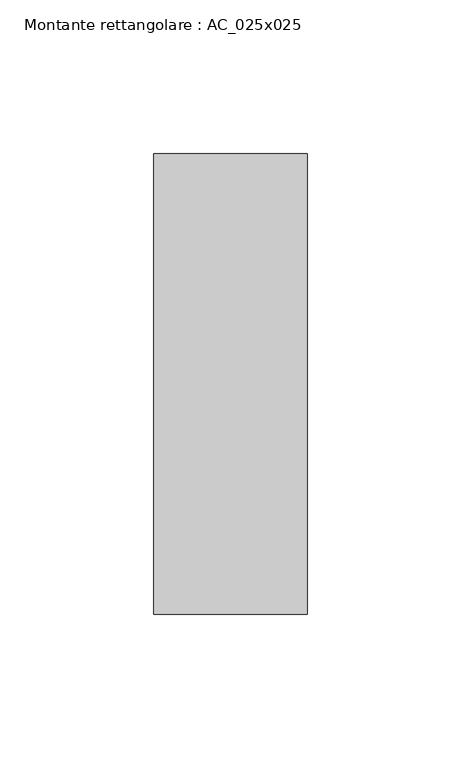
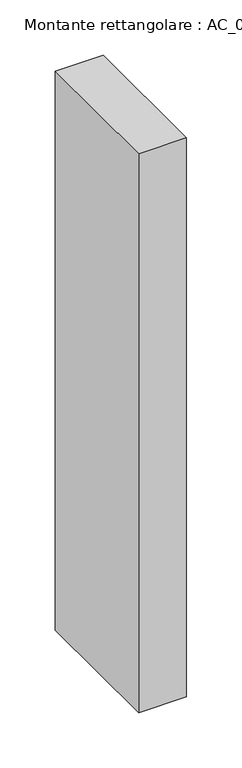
"""IFC4 building model written with IfcOpenShell, lengths in millimetres: member geometry, Montante rettangolare : AC_025x025."""

from ifc_helpers import new_model, si_unit, frame, origin, place, context, project, spatial, polyline, outline, extrude, source, transform, mapped, element, save


def montante_rettangolare_ac_025x025_a43bc5c3(model_context):
    return source(origin(), model_context, "Body", "SweptSolid", [
        extrude(outline(polyline([(0.0, 75.0), (0.0, -75.0), (-50.0, -75.0), (-50.0, 75.0), (0.0, 75.0)])), frame((0.0, 0.0, -615.548907), z_axis=(0.0, 0.0, 1.0), x_axis=(1.0, 0.0, 0.0)), (0.0, 0.0, 1.0), 615.548907),
    ])


if __name__ == "__main__":
    model = new_model("IFC4")
    model_context = context("Model", 3, world=origin())
    ifc_project = project(units=[si_unit("LENGTHUNIT", "METRE", prefix="MILLI")], contexts=[model_context])
    site = spatial("IfcSite", under=ifc_project)
    building = spatial("IfcBuilding", under=site)
    placement = place(None, origin())
    montante_rettangolare_ac_025x025_shape = montante_rettangolare_ac_025x025_a43bc5c3(model_context)
    element("IfcMember", 1, ObjectType="Montante rettangolare : AC_025x025", at=placement, inside=building, context=model_context, shape_type="MappedRepresentation", body=[
        mapped(montante_rettangolare_ac_025x025_shape, transform((0.0, 0.0, 0.0), x_axis=(1.0, 0.0, 0.0), y_axis=(0.0, 1.0, 0.0), z_axis=(0.0, 0.0, 1.0))),
    ])
    save(model, "model.ifc")
